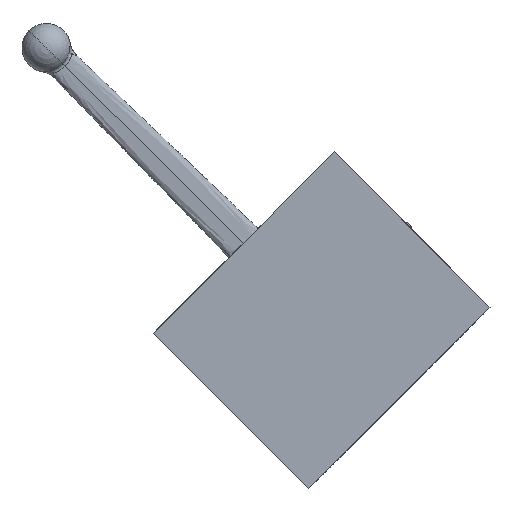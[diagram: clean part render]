
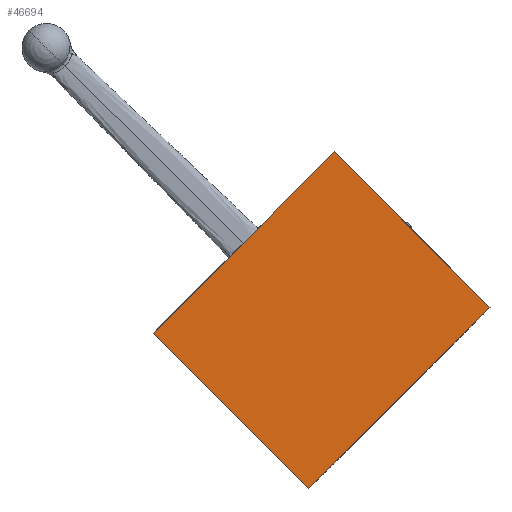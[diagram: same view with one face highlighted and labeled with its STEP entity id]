
A CAD part, front view. The second image highlights one B-rep face of the part: STEP entity #46694.
In plain terms, the highlighted planar face has unit normal (0, -1, 0).
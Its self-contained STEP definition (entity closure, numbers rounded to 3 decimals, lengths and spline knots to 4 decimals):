
#12 = DIRECTION ( 'NONE',  ( -0.707, 0., -0.707 ) ) ;
#1310 = VECTOR ( 'NONE', #12, 39.3701 ) ;
#3081 = EDGE_CURVE ( 'NONE', #49347, #5516, #34222, .T. ) ;
#5516 = VERTEX_POINT ( 'NONE', #23372 ) ;
#6324 = DIRECTION ( 'NONE',  ( 0.707, 0., -0.707 ) ) ;
#6867 = DIRECTION ( 'NONE',  ( -0.707, 0., -0.707 ) ) ;
#7004 = CARTESIAN_POINT ( 'NONE',  ( -4.1933, -3.097, -11.162 ) ) ;
#9093 = ORIENTED_EDGE ( 'NONE', *, *, #45400, .T. ) ;
#9626 = CARTESIAN_POINT ( 'NONE',  ( -4.1933, -3.097, -11.162 ) ) ;
#12098 = CARTESIAN_POINT ( 'NONE',  ( -4.7271, -3.097, -18.0527 ) ) ;
#15503 = VECTOR ( 'NONE', #6867, 39.3701 ) ;
#17785 = ORIENTED_EDGE ( 'NONE', *, *, #19914, .F. ) ;
#19914 = EDGE_CURVE ( 'NONE', #5516, #38067, #47926, .T. ) ;
#20097 = FACE_OUTER_BOUND ( 'NONE', #20820, .T. ) ;
#20820 = EDGE_LOOP ( 'NONE', ( #17785, #50396, #9093, #50582 ) ) ;
#23372 = CARTESIAN_POINT ( 'NONE',  ( -1.0148, -3.097, -14.3404 ) ) ;
#26042 = CARTESIAN_POINT ( 'NONE',  ( -7.9056, -3.097, -14.8743 ) ) ;
#26180 = VECTOR ( 'NONE', #37610, 39.3701 ) ;
#26862 = VERTEX_POINT ( 'NONE', #26042 ) ;
#27276 = AXIS2_PLACEMENT_3D ( 'NONE', #42169, #39459, #6324 ) ;
#28126 = EDGE_CURVE ( 'NONE', #26862, #38067, #36329, .T. ) ;
#31698 = CARTESIAN_POINT ( 'NONE',  ( -7.9056, -3.097, -14.8743 ) ) ;
#34222 = LINE ( 'NONE', #9626, #26180 ) ;
#36049 = PLANE ( 'NONE',  #27276 ) ;
#36074 = CARTESIAN_POINT ( 'NONE',  ( -7.9056, -3.097, -14.8743 ) ) ;
#36329 = LINE ( 'NONE', #36074, #41726 ) ;
#37610 = DIRECTION ( 'NONE',  ( 0.707, 0., -0.707 ) ) ;
#38067 = VERTEX_POINT ( 'NONE', #51756 ) ;
#39459 = DIRECTION ( 'NONE',  ( 0., -1., 0. ) ) ;
#41726 = VECTOR ( 'NONE', #43662, 39.3701 ) ;
#42169 = CARTESIAN_POINT ( 'NONE',  ( -7.9056, -3.097, -14.8743 ) ) ;
#43662 = DIRECTION ( 'NONE',  ( 0.707, 0., -0.707 ) ) ;
#45400 = EDGE_CURVE ( 'NONE', #49347, #26862, #48405, .T. ) ;
#46694 = ADVANCED_FACE ( 'NONE', ( #20097 ), #36049, .T. ) ;
#47926 = LINE ( 'NONE', #12098, #15503 ) ;
#48405 = LINE ( 'NONE', #31698, #1310 ) ;
#49347 = VERTEX_POINT ( 'NONE', #7004 ) ;
#50396 = ORIENTED_EDGE ( 'NONE', *, *, #3081, .F. ) ;
#50582 = ORIENTED_EDGE ( 'NONE', *, *, #28126, .T. ) ;
#51756 = CARTESIAN_POINT ( 'NONE',  ( -4.7271, -3.097, -18.0527 ) ) ;
